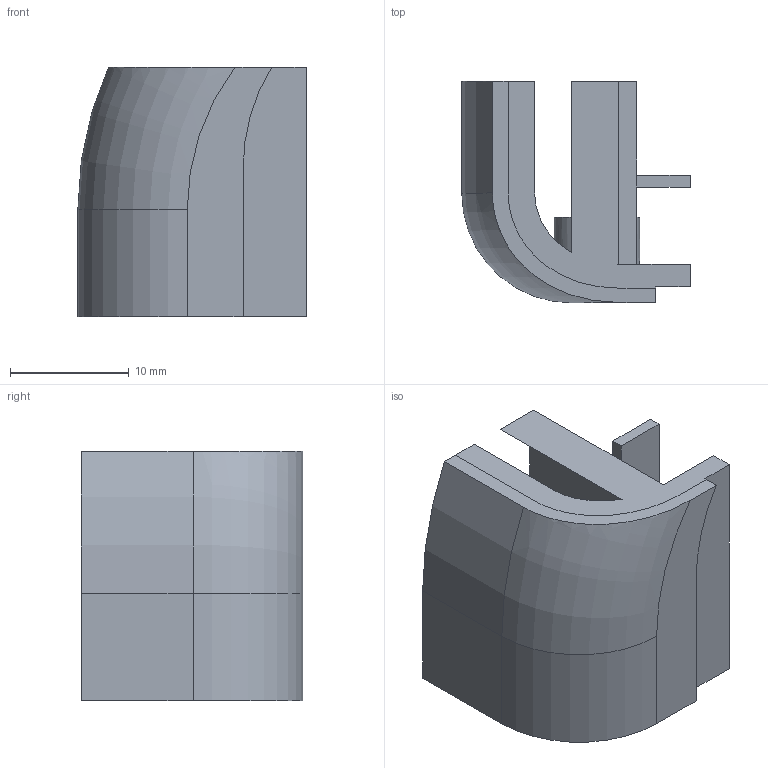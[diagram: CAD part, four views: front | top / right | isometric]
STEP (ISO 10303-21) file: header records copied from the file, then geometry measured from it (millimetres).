
FILE_DESCRIPTION(('Open CASCADE Model'),'2;1');
FILE_NAME('C04_GRIP_CURVE - test section with cut boundaries', '2026-09-06T11:35:16',('Author'),('Open CASCADE'), 'Open CASCADE STEP processor 7.8','build123d','Unknown');
FILE_SCHEMA(('AUTOMOTIVE_DESIGN { 1 0 10303 214 1 1 1 1 }'));
Length unit declared in the file: millimetre
Products named in the file (5): C04_GRIP_CURVE - test section with cut boundaries; front_chassis_PA12; front_grip_skin_finegrain_cream; front_grip_PSA_patch_0.13_2; SOLID
Assembly tree (4 placements, depth 3):
  C04_GRIP_CURVE - test section with cut boundaries
    front_chassis_PA12
    front_grip_skin_finegrain_cream
    front_grip_PSA_patch_0.13_2
      SOLID
Bounding box: 19.2 x 18.6 x 21 mm (x, y, z)
Volume: 2554.8 mm3; surface area: 3797.5 mm2
Topology: 3 solids, 3 shells, 67 faces, 166 edges, 107 vertices
Faces by surface type: plane 50, cylinder 13, torus 4
Full cylindrical faces by diameter (mm): 3.2 x1
Entity records: 4832 total; most frequent: CARTESIAN_POINT 1561, DIRECTION 545, ORIENTED_EDGE 332, PCURVE 332, DEFINITIONAL_REPRESENTATION 332, LINE 329, VECTOR 329, EDGE_CURVE 166
